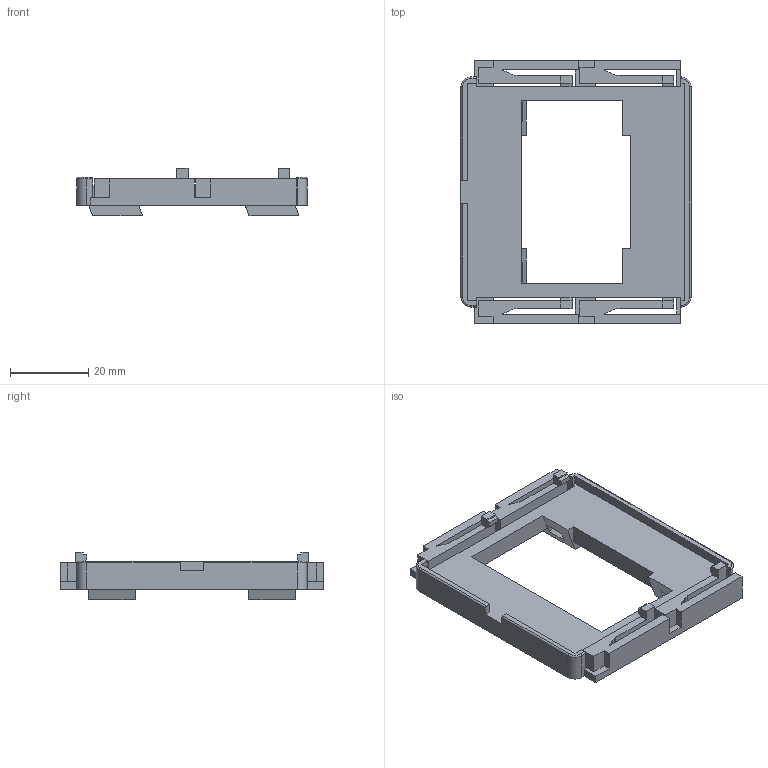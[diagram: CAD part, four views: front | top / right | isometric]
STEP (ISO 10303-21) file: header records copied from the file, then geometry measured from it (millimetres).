
FILE_DESCRIPTION(('Open CASCADE Model'),'2;1');
FILE_NAME('Open CASCADE Shape Model','2026-11-15T18:32:08',('Author'),( 'Open CASCADE'),'Open CASCADE STEP processor 7.9','Open CASCADE 7.9' ,'Unknown');
FILE_SCHEMA(('AUTOMOTIVE_DESIGN { 1 0 10303 214 1 1 1 1 }'));
Length unit declared in the file: millimetre
Products named in the file (1): Open CASCADE STEP translator 7.9 1
Bounding box: 58.8 x 67.2 x 12.05 mm (x, y, z)
Volume: 12928.4 mm3; surface area: 11318.7 mm2
Topology: 1 solids, 1 shells, 201 faces, 593 edges, 392 vertices
Faces by surface type: plane 186, cylinder 11, torus 4
Entity records: 14352 total; most frequent: CARTESIAN_POINT 2421, DIRECTION 2201, LINE 1739, VECTOR 1739, ORIENTED_EDGE 1186, PCURVE 1186, DEFINITIONAL_REPRESENTATION 1186, EDGE_CURVE 593
